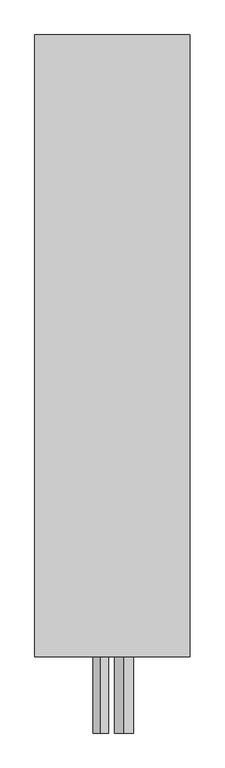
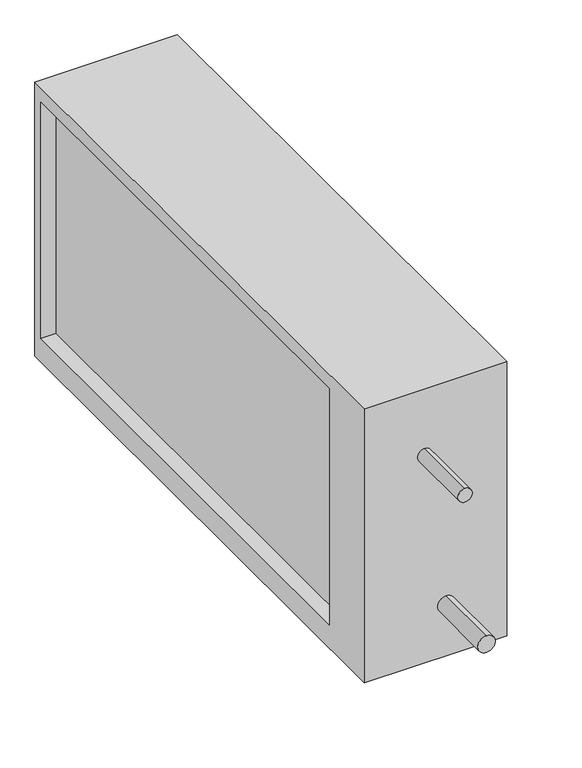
"""IFC4 building model written with IfcOpenShell, lengths in millimetres: proxy geometry, СВ_ВоздухоохладительФреоновый_КанальныйПрямоугольный_200-1000_SPC-F : SPC-F-1000x500-R."""

from ifc_helpers import new_model, si_unit, point, frame, frame_2d, origin, place, context, project, spatial, polyline, circle_curve, trimmed, segment, composite_curve, outline, extrude, source, transform, mapped, element, save


def mechanical_equipment_0687b049(model_context):
    return source(origin(), model_context, "Body", "SweptSolid", [
        extrude(outline(polyline([(-620.0, -300.0), (-620.0, 280.0), (520.0, 280.0), (520.0, -300.0), (-620.0, -300.0)]), holes=[polyline([(-500.0, 250.0), (-500.0, -250.0), (500.0, -250.0), (500.0, 250.0), (-500.0, 250.0)])]), frame((-142.5, 0.0, 0.0), z_axis=(1.0, 0.0, 0.0), x_axis=(0.0, 1.0, 0.0)), (0.0, 0.0, 1.0), 285.0),
        extrude(outline(composite_curve([segment(trimmed(circle_curve(frame_2d((-190.0, 21.5)), 17.45), [point((-172.55, 21.5))], [point((-207.45, 21.5))], False, "CARTESIAN"), True, "CONTINUOUS"), segment(trimmed(circle_curve(frame_2d((-190.0, 21.5)), 17.45), [point((-207.45, 21.5))], [point((-172.55, 21.5))], False, "CARTESIAN"), True, "CONTINUOUS")], self_intersect=False)), frame((0.0, -760.0, 0.0), z_axis=(0.0, 1.0, 0.0), x_axis=(0.0, 0.0, 1.0)), (0.0, 0.0, 1.0), 140.0),
        extrude(outline(composite_curve([segment(trimmed(circle_curve(frame_2d((140.0, -21.5)), 14.3), [point((154.3, -21.5))], [point((125.7, -21.5))], False, "CARTESIAN"), True, "CONTINUOUS"), segment(trimmed(circle_curve(frame_2d((140.0, -21.5)), 14.3), [point((125.7, -21.5))], [point((154.3, -21.5))], False, "CARTESIAN"), True, "CONTINUOUS")], self_intersect=False)), frame((0.0, -760.0, 0.0), z_axis=(0.0, 1.0, 0.0), x_axis=(0.0, 0.0, 1.0)), (0.0, 0.0, 1.0), 140.0),
        extrude(outline(composite_curve([segment(trimmed(circle_curve(frame_2d((0.0, -580.0)), 11.0), [point((-11.0, -580.0))], [point((11.0, -580.0))], False, "CARTESIAN"), True, "CONTINUOUS"), segment(trimmed(circle_curve(frame_2d((0.0, -580.0)), 11.0), [point((11.0, -580.0))], [point((-11.0, -580.0))], False, "CARTESIAN"), True, "CONTINUOUS")], self_intersect=False)), frame((0.0, 0.0, -320.0), z_axis=(0.0, 0.0, 1.0), x_axis=(1.0, 0.0, 0.0)), (0.0, 0.0, 1.0), 20.0),
        extrude(outline(polyline([(112.5, 500.0), (112.5, -500.0), (-112.5, -500.0), (-112.5, 500.0), (112.5, 500.0)])), frame((0.0, 0.0, -250.0), z_axis=(0.0, 0.0, 1.0), x_axis=(1.0, 0.0, 0.0)), (0.0, 0.0, 1.0), 500.0),
    ])


if __name__ == "__main__":
    model = new_model("IFC4")
    model_context = context("Model", 3, world=origin())
    ifc_project = project(units=[si_unit("LENGTHUNIT", "METRE", prefix="MILLI")], contexts=[model_context])
    site = spatial("IfcSite", under=ifc_project)
    building = spatial("IfcBuilding", under=site)
    placement = place(None, origin())
    mechanical_equipment_shape = mechanical_equipment_0687b049(model_context)
    element("IfcBuildingElementProxy", 1, Name="СВ_ВоздухоохладительФреоновый_КанальныйПрямоугольный_200-1000_SPC-F : SPC-F-1000x500-R", ObjectType="СВ_ВоздухоохладительФреоновый_КанальныйПрямоугольный_200-1000_SPC-F : SPC-F-1000x500-R", at=placement, inside=building, context=model_context, shape_type="MappedRepresentation", body=[
        mapped(mechanical_equipment_shape, transform((0.0, 0.0, 0.0), x_axis=(1.0, 0.0, 0.0), y_axis=(0.0, 1.0, 0.0), z_axis=(0.0, 0.0, 1.0))),
    ])
    save(model, "model.ifc")
